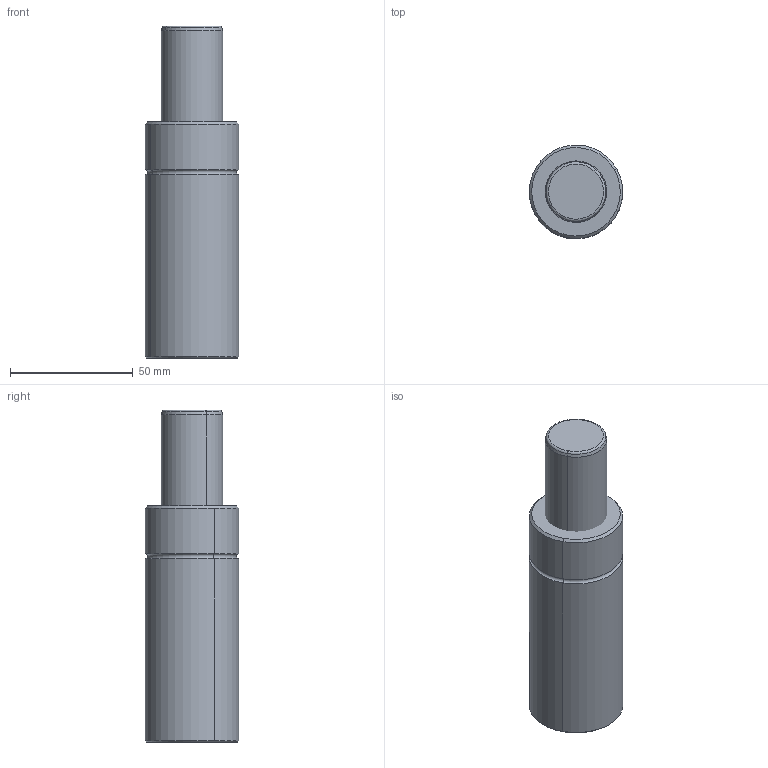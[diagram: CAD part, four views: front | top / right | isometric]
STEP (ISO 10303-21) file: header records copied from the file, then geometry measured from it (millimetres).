
FILE_DESCRIPTION(('CATIA V5 STEP Exchange'),'2;1');
FILE_NAME('W:\CATALOGO GENERAL 2018\FICHEROS CAD\003-TPH\TPH 1000\TPH1000x38.stp','2017-10-30T10:57:09+00:00',('none'),('none'),'CATIA Version 5 Release 17 (IN-10)','CATIA V5 STEP AP203','none');
FILE_SCHEMA(('CONFIG_CONTROL_DESIGN'));
Length unit declared in the file: millimetre
Products named in the file (1): TPH 1000x38
Assembly tree (2 placements, depth 2):
  TPH 1000x38
    #56
    #489
Bounding box: 37.99 x 37.99 x 135 mm (x, y, z)
Volume: 142886.1 mm3; surface area: 21217.4 mm2
Topology: 2 solids, 2 shells, 43 faces, 82 edges, 48 vertices
Faces by surface type: cylinder 16, torus 10, plane 9, cone 8
Entity records: 1016 total; most frequent: ORIENTED_EDGE 164, CARTESIAN_POINT 156, DIRECTION 134, AXIS2_PLACEMENT_3D 84, EDGE_CURVE 82, CIRCLE 58, EDGE_LOOP 48, VERTEX_POINT 48
